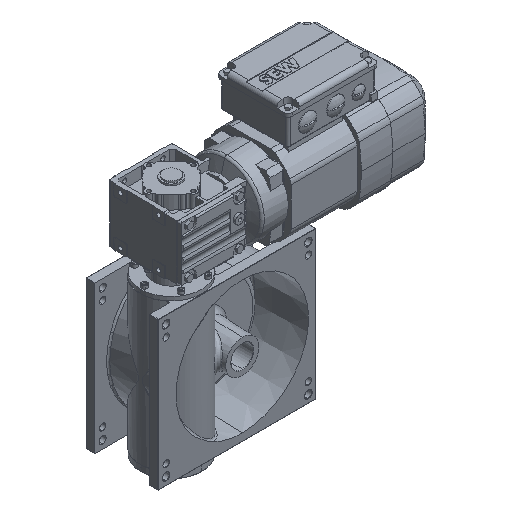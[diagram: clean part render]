
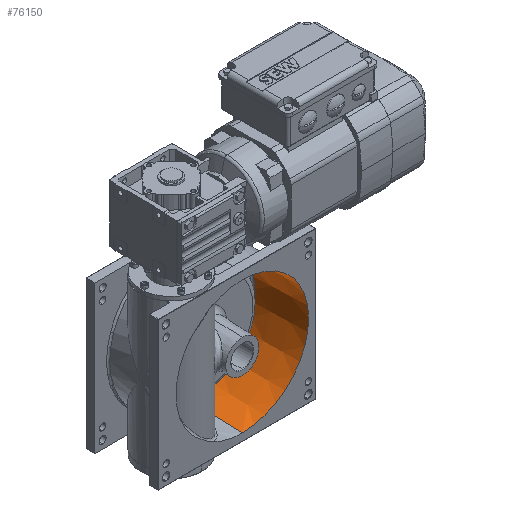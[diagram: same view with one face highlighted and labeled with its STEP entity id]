
A CAD part, isometric view. The second image highlights one B-rep face of the part: STEP entity #76150.
In plain terms, the highlighted conical face has half-angle 2 degrees and reference radius 104.105 mm.
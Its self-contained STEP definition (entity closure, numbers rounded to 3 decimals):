
#2373 = VERTEX_POINT ( 'NONE', #28800 ) ;
#4671 = EDGE_CURVE ( 'NONE', #41488, #16656, #55386, .T. ) ;
#6308 = VECTOR ( 'NONE', #73046, 1000. ) ;
#8662 = DIRECTION ( 'NONE',  ( 0., 1., 0. ) ) ;
#13556 = AXIS2_PLACEMENT_3D ( 'NONE', #48383, #8662, #28098 ) ;
#13775 = EDGE_LOOP ( 'NONE', ( #62757, #63507, #49281, #65786 ) ) ;
#16656 = VERTEX_POINT ( 'NONE', #49044 ) ;
#21305 = AXIS2_PLACEMENT_3D ( 'NONE', #63066, #70264, #31321 ) ;
#26922 = CARTESIAN_POINT ( 'NONE',  ( 0., 0., 104.105 ) ) ;
#27905 = CARTESIAN_POINT ( 'NONE',  ( 0., 0., -104.105 ) ) ;
#28098 = DIRECTION ( 'NONE',  ( 0., 0., 1. ) ) ;
#28800 = CARTESIAN_POINT ( 'NONE',  ( 0., 3., 104. ) ) ;
#31321 = DIRECTION ( 'NONE',  ( 0., 0., -1. ) ) ;
#40233 = CARTESIAN_POINT ( 'NONE',  ( 0., 3., -104. ) ) ;
#40383 = DIRECTION ( 'NONE',  ( 0., 1., 0. ) ) ;
#41488 = VERTEX_POINT ( 'NONE', #56397 ) ;
#42606 = VERTEX_POINT ( 'NONE', #40233 ) ;
#44931 = DIRECTION ( 'NONE',  ( 0., -0.999, -0.035 ) ) ;
#48383 = CARTESIAN_POINT ( 'NONE',  ( 0., 84.705, 0. ) ) ;
#49044 = CARTESIAN_POINT ( 'NONE',  ( 0., 84.705, -101.147 ) ) ;
#49281 = ORIENTED_EDGE ( 'NONE', *, *, #49854, .T. ) ;
#49854 = EDGE_CURVE ( 'NONE', #16656, #42606, #51778, .T. ) ;
#51778 = LINE ( 'NONE', #27905, #75284 ) ;
#55386 = CIRCLE ( 'NONE', #13556, 101.147 ) ;
#56397 = CARTESIAN_POINT ( 'NONE',  ( 0., 84.705, 101.147 ) ) ;
#59103 = DIRECTION ( 'NONE',  ( 0., 0., -1. ) ) ;
#62757 = ORIENTED_EDGE ( 'NONE', *, *, #82566, .F. ) ;
#63066 = CARTESIAN_POINT ( 'NONE',  ( 0., 0., 0. ) ) ;
#63507 = ORIENTED_EDGE ( 'NONE', *, *, #4671, .T. ) ;
#65396 = CARTESIAN_POINT ( 'NONE',  ( 0., 3., 0. ) ) ;
#65786 = ORIENTED_EDGE ( 'NONE', *, *, #71814, .F. ) ;
#67963 = AXIS2_PLACEMENT_3D ( 'NONE', #65396, #40383, #59103 ) ;
#70264 = DIRECTION ( 'NONE',  ( 0., -1., 0. ) ) ;
#70706 = CIRCLE ( 'NONE', #67963, 104. ) ;
#71090 = FACE_OUTER_BOUND ( 'NONE', #13775, .T. ) ;
#71814 = EDGE_CURVE ( 'NONE', #2373, #42606, #70706, .T. ) ;
#73046 = DIRECTION ( 'NONE',  ( 0., -0.999, 0.035 ) ) ;
#73469 = LINE ( 'NONE', #26922, #6308 ) ;
#75284 = VECTOR ( 'NONE', #44931, 1000. ) ;
#75368 = CONICAL_SURFACE ( 'NONE', #21305, 104.105, 0.035 ) ;
#76150 = ADVANCED_FACE ( 'NONE', ( #71090 ), #75368, .F. ) ;
#82566 = EDGE_CURVE ( 'NONE', #41488, #2373, #73469, .T. ) ;
